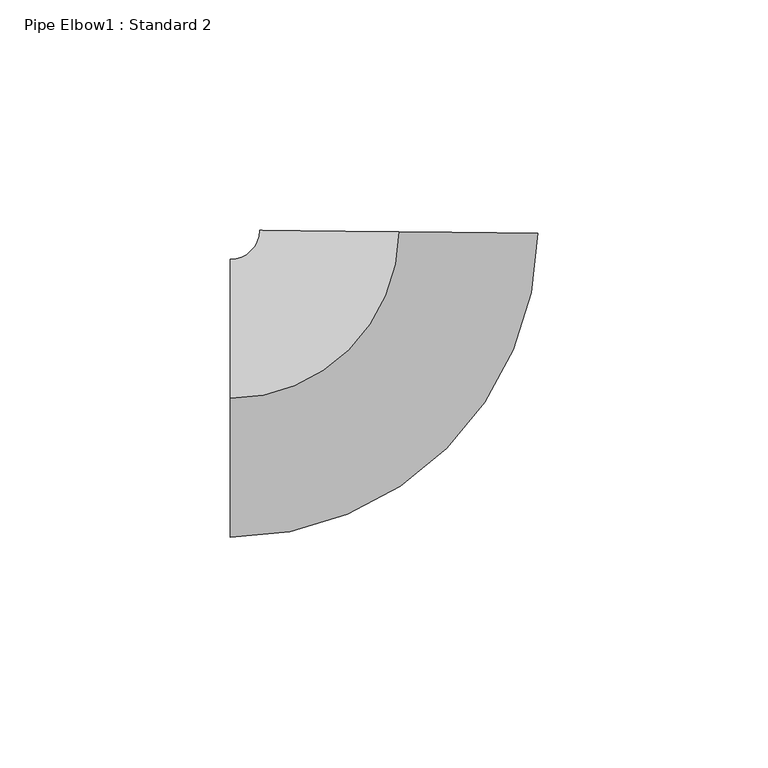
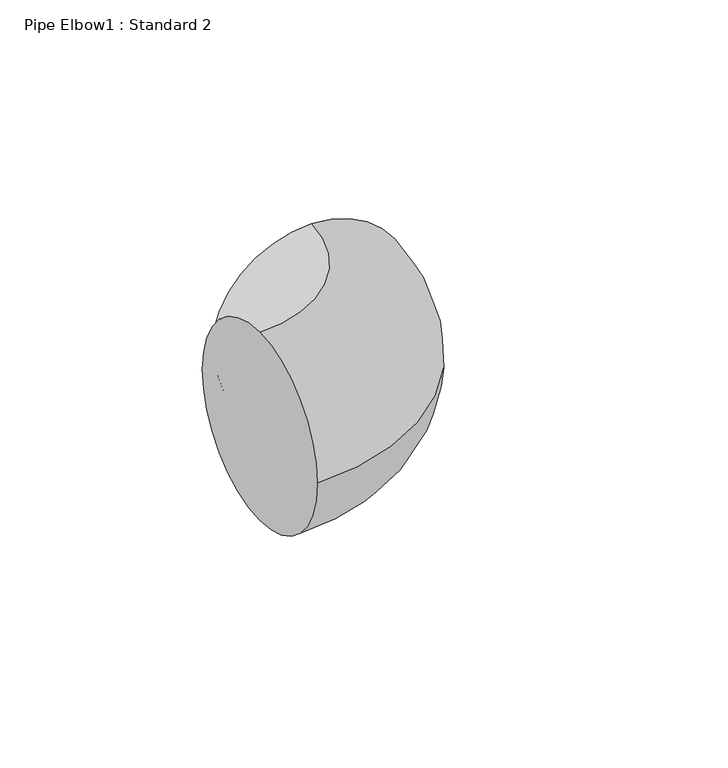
"""IFC4 building model written with IfcOpenShell, lengths in millimetres: pipe fitting geometry, Pipe Elbow1 : Standard 2."""

import ifcopenshell
import ifcopenshell.guid

model = None  # the IFC model being written
_history = None  # IfcOwnerHistory: only IFC2X3 demands one
_inside = {}  # id of a spatial element -> (the spatial element, [elements in it])
_under = {}  # id of a project, library or spatial element -> (it, [spatial elements below it])
_declared = {}  # id of a project -> (the project, [libraries it declares])
_typed = {}  # id of a type object -> (the type object, [elements of that type])
_made_of = {}  # id of a material, layer set ... -> (it, [elements and type objects made of it])


def new_model(schema):
    """Start an empty IFC model of exactly this schema.

    Asked for "IFC4X3", IfcOpenShell would pick the latest addendum, in which some entities
    have other attributes; the version numbers below select the first issue.
    IFC2X3 requires an IfcOwnerHistory on every rooted entity: one is made here for all.
    """
    global model, _history
    if schema == "IFC4X3":
        model = ifcopenshell.file(schema_version=(4, 3, 0, 0))
    else:
        model = ifcopenshell.file(schema=schema)
    _inside.clear()
    _under.clear()
    _declared.clear()
    _typed.clear()
    _made_of.clear()
    _history = None
    if model.schema == "IFC2X3":
        org = make("IfcOrganization", Name="unknown")
        user = make(
            "IfcPersonAndOrganization",
            ThePerson=make("IfcPerson", FamilyName="unknown"),
            TheOrganization=org,
        )
        app = make(
            "IfcApplication",
            ApplicationDeveloper=org,
            Version="unknown",
            ApplicationFullName="unknown",
            ApplicationIdentifier="unknown",
        )
        _history = make(
            "IfcOwnerHistory",
            OwningUser=user,
            OwningApplication=app,
            ChangeAction="ADDED",
            CreationDate=0,
        )
    return model


def make(cls, **values):
    """One entity of the class cls with the attributes given. An attribute that is None is left unset."""
    return model.create_entity(
        cls, **{name: value for name, value in values.items() if value is not None}
    )


def rooted(cls, **values):
    """An entity with a GlobalId (a new one), such as an element, a storey or a relation."""
    return make(cls, GlobalId=ifcopenshell.guid.new(), OwnerHistory=_history, **values)


def si_unit(unit_type, name, prefix=None):
    """IfcSIUnit, for example si_unit("LENGTHUNIT", "METRE", prefix="MILLI")."""
    return make("IfcSIUnit", UnitType=unit_type, Prefix=prefix, Name=name)


def assignment(units):
    """IfcUnitAssignment: the units of a project."""
    return None if units is None else make("IfcUnitAssignment", Units=units)


def point(xyz):
    """IfcCartesianPoint."""
    return None if xyz is None else make("IfcCartesianPoint", Coordinates=xyz)


def direction(xyz):
    """IfcDirection."""
    return None if xyz is None else make("IfcDirection", DirectionRatios=xyz)


def frame(location, z_axis=None, x_axis=None):
    """IfcAxis2Placement3D, a coordinate frame: its origin and axes. An axis left out is left unset."""
    return make(
        "IfcAxis2Placement3D",
        Location=point(location),
        Axis=direction(z_axis),
        RefDirection=direction(x_axis),
    )


def origin():
    """The frame at (0, 0, 0) with its axes left unset."""
    return frame((0.0, 0.0, 0.0))


def place(relative_to, where):
    """IfcLocalPlacement: puts the frame where relative to a parent placement (None: the world)."""
    return make(
        "IfcLocalPlacement", PlacementRelTo=relative_to, RelativePlacement=where
    )


def context(
    kind, dimensions, precision=None, world=None, true_north=None, identifier=None
):
    """IfcGeometricRepresentationContext, for example the 3D "Model" context."""
    return make(
        "IfcGeometricRepresentationContext",
        ContextIdentifier=identifier,
        ContextType=kind,
        CoordinateSpaceDimension=dimensions,
        Precision=precision,
        WorldCoordinateSystem=world,
        TrueNorth=true_north,
    )


def project(units=None, contexts=None):
    """IfcProject with its units and contexts."""
    return rooted(
        "IfcProject",
        Name="project",
        RepresentationContexts=contexts,
        UnitsInContext=assignment(units),
    )


def spatial(cls, under=None, at=None, **own):
    """A site, building, storey or space (cls), placed at a placement, below another one or the project."""
    s = rooted(cls, ObjectPlacement=at, **own)
    if under is not None:
        _under.setdefault(under.id(), (under, []))[1].append(s)
    return s


def circle_curve(where, radius):
    """IfcCircle in the frame where."""
    return make("IfcCircle", Position=where, Radius=radius)


def ellipse_curve(where, semi_axis1, semi_axis2):
    """IfcEllipse in the frame where."""
    return make(
        "IfcEllipse", Position=where, SemiAxis1=semi_axis1, SemiAxis2=semi_axis2
    )


def trimmed(basis, trim1, trim2, sense, master):
    """IfcTrimmedCurve: the piece of a basis curve between two trims."""
    return make(
        "IfcTrimmedCurve",
        BasisCurve=basis,
        Trim1=trim1,
        Trim2=trim2,
        SenseAgreement=sense,
        MasterRepresentation=master,
    )


def shape(context_of_items, identifier, shape_type, items):
    """IfcShapeRepresentation: the items that make up one representation, for example the "Body"."""
    return make(
        "IfcShapeRepresentation",
        ContextOfItems=context_of_items,
        RepresentationIdentifier=identifier,
        RepresentationType=shape_type,
        Items=items,
    )


def source(mapping_origin, context_of_items, identifier, shape_type, items):
    """IfcRepresentationMap: a shape defined once, which mapped items show again and again."""
    return make(
        "IfcRepresentationMap",
        MappingOrigin=mapping_origin,
        MappedRepresentation=shape(context_of_items, identifier, shape_type, items),
    )


def transform(
    local_origin,
    x_axis=None,
    y_axis=None,
    z_axis=None,
    scale=None,
    scale2=None,
    scale3=None,
    uniform=True,
):
    """IfcCartesianTransformationOperator3D, or its non-uniform kind. x_axis, y_axis, z_axis: its Axis1, 2, 3."""
    if uniform:
        return make(
            "IfcCartesianTransformationOperator3D",
            Axis1=direction(x_axis),
            Axis2=direction(y_axis),
            LocalOrigin=point(local_origin),
            Scale=scale,
            Axis3=direction(z_axis),
        )
    return make(
        "IfcCartesianTransformationOperator3DnonUniform",
        Axis1=direction(x_axis),
        Axis2=direction(y_axis),
        LocalOrigin=point(local_origin),
        Scale=scale,
        Axis3=direction(z_axis),
        Scale2=scale2,
        Scale3=scale3,
    )


def mapped(mapping_source, mapping_target):
    """IfcMappedItem: shows the shape of a source again, moved by a transform."""
    return make(
        "IfcMappedItem", MappingSource=mapping_source, MappingTarget=mapping_target
    )


def made_of(thing, what):
    """Note that an element or type object is made of a material, layer set ...; save() writes the relation."""
    if what is not None:
        _made_of.setdefault(what.id(), (what, []))[1].append(thing)
    return thing


def element(
    cls,
    number,
    at=None,
    inside=None,
    cuts=None,
    type_object=None,
    material=None,
    context=None,
    identifier="Body",
    shape_type=None,
    held_by="IfcProductDefinitionShape",
    body=None,
    shapes=None,
    **own,
):
    """One element of the class cls, such as IfcWall. Its Tag is "e" and its number.

    at: its placement. inside: the storey or other place that contains it. cuts: it is an
    opening in that element (IfcRelVoidsElement). A single representation is given by context,
    identifier, shape_type and body (its items); several are given by shapes. held_by: the class
    of the entity that holds the representations. save() writes the other relations.
    """
    e = rooted(cls, Tag="e%d" % number, ObjectPlacement=at, **own)
    if body is not None:
        shapes = [shape(context, identifier, shape_type, body)]
    if shapes is not None:
        e.Representation = make(held_by, Representations=shapes)
    if inside is not None:
        _inside.setdefault(inside.id(), (inside, []))[1].append(e)
    if cuts is not None:
        rooted(
            "IfcRelVoidsElement", RelatingBuildingElement=cuts, RelatedOpeningElement=e
        )
    if type_object is not None:
        _typed.setdefault(type_object.id(), (type_object, []))[1].append(e)
    return made_of(e, material)


def aggregate(whole, parts):
    """IfcRelAggregates: a whole, such as a stair, and the parts it consists of."""
    return rooted("IfcRelAggregates", RelatingObject=whole, RelatedObjects=parts)


def save(model, path):
    """Write the relations noted so far, then the file.

    IfcRelAggregates (storeys below a building ...), IfcRelContainedInSpatialStructure (elements
    in a storey), IfcRelDefinesByType, IfcRelAssociatesMaterial and IfcRelDeclares: one each for
    every whole, place, type object, material and project.
    """
    for whole, parts in _under.values():
        aggregate(whole, parts)
    for where, things in _inside.values():
        rooted(
            "IfcRelContainedInSpatialStructure",
            RelatedElements=things,
            RelatingStructure=where,
        )
    for kind, things in _typed.values():
        rooted("IfcRelDefinesByType", RelatedObjects=things, RelatingType=kind)
    for what, things in _made_of.values():
        rooted("IfcRelAssociatesMaterial", RelatedObjects=things, RelatingMaterial=what)
    for by, libraries in _declared.values():
        rooted("IfcRelDeclares", RelatingContext=by, RelatedDefinitions=libraries)
    model.write(path)


def plane_surface(at):
    """IfcPlane: the flat surface through the origin of the frame at, square to its z axis."""
    return make("IfcPlane", Position=at)


def revolved_surface(curve, axis_point, axis_direction):
    """IfcSurfaceOfRevolution: the curve turned about the line through axis_point along axis_direction."""
    return make(
        "IfcSurfaceOfRevolution",
        SweptCurve=make("IfcArbitraryOpenProfileDef", ProfileType="CURVE", Curve=curve),
        AxisPosition=make("IfcAxis1Placement", Location=point(axis_point), Axis=direction(axis_direction)),
    )


def advanced_brep(points, edges, surfaces, faces):
    """IfcAdvancedBrep: a solid bounded by faces that lie on surfaces and meet in shared edges.

    An edge is (start, end): straight between two places in points (the first is 0);
    or (start, end, curve); or (start, end, curve, False) where it runs against its curve.
    A face is (place in surfaces, loops), or (place, loops, False) where it looks against
    its surface's normal. A loop lists edges by number (the first is 1), with a minus sign
    where the edge is run from its end to its start. The first loop is the outer one.
    """
    corners = [point(p) for p in points]
    vertices = [make("IfcVertexPoint", VertexGeometry=c) for c in corners]
    made = []
    for start, end, *more in edges:
        made.append(
            make(
                "IfcEdgeCurve",
                EdgeStart=vertices[start],
                EdgeEnd=vertices[end],
                EdgeGeometry=more[0] if more else make("IfcPolyline", Points=[corners[start], corners[end]]),
                SameSense=more[1] if len(more) > 1 else True,
            )
        )
    hull = []
    for where, loops, *sense in faces:
        bounds = []
        for j, loop in enumerate(loops):
            ring = [make("IfcOrientedEdge", EdgeElement=made[abs(k) - 1], Orientation=k > 0) for k in loop]
            bounds.append(
                make(
                    "IfcFaceOuterBound" if j == 0 else "IfcFaceBound",
                    Bound=make("IfcEdgeLoop", EdgeList=ring),
                    Orientation=True,
                )
            )
        hull.append(make("IfcAdvancedFace", Bounds=bounds, FaceSurface=surfaces[where], SameSense=sense[0] if sense else True))
    return make("IfcAdvancedBrep", Outer=make("IfcClosedShell", CfsFaces=hull))


def pipe_elbow1_standard_2_7266e7d7(model_context):
    return source(origin(), model_context, "Body", "AdvancedBrep", [
        advanced_brep(
        [(-36.1335278, 0.0, 30.1625), (-36.1335278, 30.1625, 0.0), (-36.1335278, 0.0, -30.1625), (-36.1335278, -30.1625, 0.0), (0.3769849, 36.1315612, 30.1625), (30.5378433, 35.8168727, 0.0), (0.3769849, 36.1315612, -30.1625), (-29.7838735, 36.4462498, 0.0)],
        [
            (0, 1, circle_curve(frame((-36.1335278, 0.0, 0.0), z_axis=(-1.0, 0.0, 0.0), x_axis=(0.0, 1.0, 0.0)), 30.1625)),
            (1, 2, circle_curve(frame((-36.1335278, 0.0, 0.0), z_axis=(-1.0, 0.0, 0.0), x_axis=(0.0, 1.0, 0.0)), 30.1625)),
            (2, 3, circle_curve(frame((-36.1335278, 0.0, 0.0), z_axis=(-1.0, 0.0, 0.0), x_axis=(0.0, 1.0, 0.0)), 30.1625)),
            (3, 0, circle_curve(frame((-36.1335278, 0.0, 0.0), z_axis=(-1.0, 0.0, 0.0), x_axis=(0.0, 1.0, 0.0)), 30.1625)),
            (4, 5, circle_curve(frame((0.3769849, 36.1315612, 0.0), z_axis=(0.010433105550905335, 0.9999455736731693, 0.0), x_axis=(-0.9999455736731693, 0.010433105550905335, 0.0)), 30.1625)),
            (5, 6, circle_curve(frame((0.3769849, 36.1315612, 0.0), z_axis=(0.010433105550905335, 0.9999455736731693, 0.0), x_axis=(-0.9999455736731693, 0.010433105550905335, 0.0)), 30.1625)),
            (6, 7, circle_curve(frame((0.3769849, 36.1315612, 0.0), z_axis=(0.010433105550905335, 0.9999455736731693, 0.0), x_axis=(-0.9999455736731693, 0.010433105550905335, 0.0)), 30.1625)),
            (7, 4, circle_curve(frame((0.3769849, 36.1315612, 0.0), z_axis=(0.010433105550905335, 0.9999455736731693, 0.0), x_axis=(-0.9999455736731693, 0.010433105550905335, 0.0)), 30.1625)),
            (7, 1, circle_curve(frame((-36.1335278, 36.5125, 0.0), z_axis=(0.0, 0.0, -1.0), x_axis=(0.0, -1.0, 0.0)), 6.35)),
            (0, 4, circle_curve(frame((-36.1335278, 36.5125, 30.1625), z_axis=(0.0, 0.0, 1.0), x_axis=(0.0, -1.0, 0.0)), 36.5125)),
            (6, 2, circle_curve(frame((-36.1335278, 36.5125, -30.1625), z_axis=(0.0, 0.0, -1.0), x_axis=(0.0, -1.0, 0.0)), 36.5125)),
            (5, 3, circle_curve(frame((-36.1335278, 36.5125, 0.0), z_axis=(0.0, 0.0, -1.0), x_axis=(0.0, -1.0, 0.0)), 66.675)),
        ],
        [
            plane_surface(frame((-36.1335278, 0.0, 0.0), z_axis=(-1.0, 0.0, 0.0), x_axis=(0.0, 0.0, 1.0))),
            plane_surface(frame((0.3769849, 36.1315612, 0.0), z_axis=(0.010433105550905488, 0.9999455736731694, 0.0), x_axis=(0.0, 0.0, 1.0))),
            revolved_surface(trimmed(ellipse_curve(frame((-36.1335278, 0.0, 0.0), z_axis=(-1.0, 0.0, 0.0), x_axis=(0.0, 1.0, 0.0)), 30.1625, 30.1625), [point((-36.1335278, 0.0, 30.1625))], [point((-36.1335278, 30.1625, 0.0))], True, "CARTESIAN"), (-36.1335278, 36.5125, 0.0), (0.0, 0.0, 1.0)),
            revolved_surface(trimmed(ellipse_curve(frame((-36.1335278, 0.0, 0.0), z_axis=(-1.0, 0.0, 0.0), x_axis=(0.0, 1.0, 0.0)), 30.1625, 30.1625), [point((-36.1335278, 30.1625, 0.0))], [point((-36.1335278, 0.0, -30.1625))], True, "CARTESIAN"), (-36.1335278, 36.5125, 0.0), (0.0, 0.0, 1.0)),
            revolved_surface(trimmed(ellipse_curve(frame((-36.1335278, 0.0, 0.0), z_axis=(-1.0, 0.0, 0.0), x_axis=(0.0, 1.0, 0.0)), 30.1625, 30.1625), [point((-36.1335278, 0.0, -30.1625))], [point((-36.1335278, -30.1625, 0.0))], True, "CARTESIAN"), (-36.1335278, 36.5125, 0.0), (0.0, 0.0, 1.0)),
            revolved_surface(trimmed(ellipse_curve(frame((-36.1335278, 0.0, 0.0), z_axis=(-1.0, 0.0, 0.0), x_axis=(0.0, 1.0, 0.0)), 30.1625, 30.1625), [point((-36.1335278, -30.1625, 0.0))], [point((-36.1335278, 0.0, 30.1625))], True, "CARTESIAN"), (-36.1335278, 36.5125, 0.0), (0.0, 0.0, 1.0)),
        ],
        [
            (0, [[1, 2, 3, 4]]),
            (1, [[5, 6, 7, 8]]),
            (2, [[9, -1, 10, -8]]),
            (3, [[11, -2, -9, -7]]),
            (4, [[12, -3, -11, -6]]),
            (5, [[-10, -4, -12, -5]]),
        ],
    ),
        advanced_brep(
        [(-36.1335278, 0.0, 30.1625), (-36.1335278, 30.1625, 0.0), (-36.1335278, 0.0, -30.1625), (-36.1335278, -30.1625, 0.0), (0.3769849, 36.1315612, 30.1625), (30.5378433, 35.8168727, 0.0), (0.3769849, 36.1315612, -30.1625), (-29.7838735, 36.4462498, 0.0)],
        [
            (0, 1, circle_curve(frame((-36.1335278, 0.0, 0.0), z_axis=(-1.0, 0.0, 0.0), x_axis=(0.0, 1.0, 0.0)), 30.1625)),
            (1, 2, circle_curve(frame((-36.1335278, 0.0, 0.0), z_axis=(-1.0, 0.0, 0.0), x_axis=(0.0, 1.0, 0.0)), 30.1625)),
            (2, 3, circle_curve(frame((-36.1335278, 0.0, 0.0), z_axis=(-1.0, 0.0, 0.0), x_axis=(0.0, 1.0, 0.0)), 30.1625)),
            (3, 0, circle_curve(frame((-36.1335278, 0.0, 0.0), z_axis=(-1.0, 0.0, 0.0), x_axis=(0.0, 1.0, 0.0)), 30.1625)),
            (4, 5, circle_curve(frame((0.3769849, 36.1315612, 0.0), z_axis=(0.010433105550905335, 0.9999455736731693, 0.0), x_axis=(-0.9999455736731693, 0.010433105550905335, 0.0)), 30.1625)),
            (5, 6, circle_curve(frame((0.3769849, 36.1315612, 0.0), z_axis=(0.010433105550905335, 0.9999455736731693, 0.0), x_axis=(-0.9999455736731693, 0.010433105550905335, 0.0)), 30.1625)),
            (6, 7, circle_curve(frame((0.3769849, 36.1315612, 0.0), z_axis=(0.010433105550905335, 0.9999455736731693, 0.0), x_axis=(-0.9999455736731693, 0.010433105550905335, 0.0)), 30.1625)),
            (7, 4, circle_curve(frame((0.3769849, 36.1315612, 0.0), z_axis=(0.010433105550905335, 0.9999455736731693, 0.0), x_axis=(-0.9999455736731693, 0.010433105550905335, 0.0)), 30.1625)),
            (7, 1, circle_curve(frame((-36.1335278, 36.5125, 0.0), z_axis=(0.0, 0.0, -1.0), x_axis=(0.0, -1.0, 0.0)), 6.35)),
            (0, 4, circle_curve(frame((-36.1335278, 36.5125, 30.1625), z_axis=(0.0, 0.0, 1.0), x_axis=(0.0, -1.0, 0.0)), 36.5125)),
            (6, 2, circle_curve(frame((-36.1335278, 36.5125, -30.1625), z_axis=(0.0, 0.0, -1.0), x_axis=(0.0, -1.0, 0.0)), 36.5125)),
            (5, 3, circle_curve(frame((-36.1335278, 36.5125, 0.0), z_axis=(0.0, 0.0, -1.0), x_axis=(0.0, -1.0, 0.0)), 66.675)),
        ],
        [
            plane_surface(frame((-36.1335278, 0.0, 0.0), z_axis=(-1.0, 0.0, 0.0), x_axis=(0.0, 0.0, 1.0))),
            plane_surface(frame((0.3769849, 36.1315612, 0.0), z_axis=(0.010433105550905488, 0.9999455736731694, 0.0), x_axis=(0.0, 0.0, 1.0))),
            revolved_surface(trimmed(ellipse_curve(frame((-36.1335278, 0.0, 0.0), z_axis=(-1.0, 0.0, 0.0), x_axis=(0.0, 1.0, 0.0)), 30.1625, 30.1625), [point((-36.1335278, 0.0, 30.1625))], [point((-36.1335278, 30.1625, 0.0))], True, "CARTESIAN"), (-36.1335278, 36.5125, 0.0), (0.0, 0.0, 1.0)),
            revolved_surface(trimmed(ellipse_curve(frame((-36.1335278, 0.0, 0.0), z_axis=(-1.0, 0.0, 0.0), x_axis=(0.0, 1.0, 0.0)), 30.1625, 30.1625), [point((-36.1335278, 30.1625, 0.0))], [point((-36.1335278, 0.0, -30.1625))], True, "CARTESIAN"), (-36.1335278, 36.5125, 0.0), (0.0, 0.0, 1.0)),
            revolved_surface(trimmed(ellipse_curve(frame((-36.1335278, 0.0, 0.0), z_axis=(-1.0, 0.0, 0.0), x_axis=(0.0, 1.0, 0.0)), 30.1625, 30.1625), [point((-36.1335278, 0.0, -30.1625))], [point((-36.1335278, -30.1625, 0.0))], True, "CARTESIAN"), (-36.1335278, 36.5125, 0.0), (0.0, 0.0, 1.0)),
            revolved_surface(trimmed(ellipse_curve(frame((-36.1335278, 0.0, 0.0), z_axis=(-1.0, 0.0, 0.0), x_axis=(0.0, 1.0, 0.0)), 30.1625, 30.1625), [point((-36.1335278, -30.1625, 0.0))], [point((-36.1335278, 0.0, 30.1625))], True, "CARTESIAN"), (-36.1335278, 36.5125, 0.0), (0.0, 0.0, 1.0)),
        ],
        [
            (0, [[1, 2, 3, 4]]),
            (1, [[5, 6, 7, 8]]),
            (2, [[9, -1, 10, -8]]),
            (3, [[11, -2, -9, -7]]),
            (4, [[12, -3, -11, -6]]),
            (5, [[-10, -4, -12, -5]]),
        ],
    ),
    ])


if __name__ == "__main__":
    model = new_model("IFC4")
    model_context = context("Model", 3, world=origin())
    ifc_project = project(units=[si_unit("LENGTHUNIT", "METRE", prefix="MILLI")], contexts=[model_context])
    site = spatial("IfcSite", under=ifc_project)
    building = spatial("IfcBuilding", under=site)
    placement = place(None, origin())
    pipe_elbow1_standard_2_shape = pipe_elbow1_standard_2_7266e7d7(model_context)
    element("IfcPipeFitting", 1, ObjectType="Pipe Elbow1 : Standard 2", at=placement, inside=building, context=model_context, shape_type="MappedRepresentation", body=[
        mapped(pipe_elbow1_standard_2_shape, transform((0.0, 0.0, 0.0), x_axis=(1.0, 0.0, 0.0), y_axis=(0.0, 1.0, 0.0), z_axis=(0.0, 0.0, 1.0))),
    ])
    save(model, "model.ifc")
